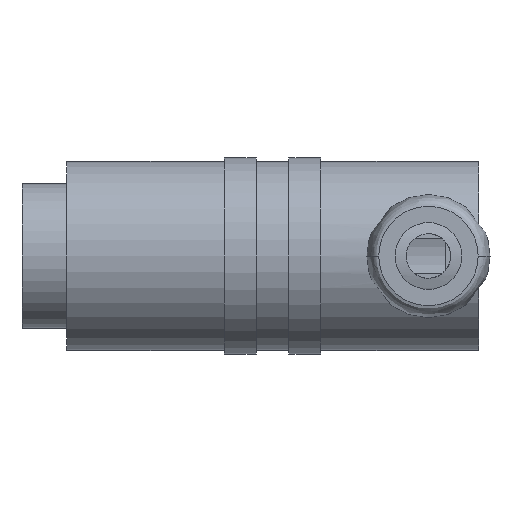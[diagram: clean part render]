
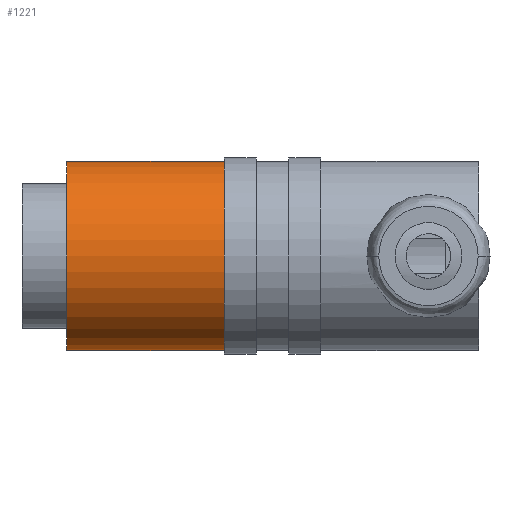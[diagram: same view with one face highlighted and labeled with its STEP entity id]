
A CAD part, front view. The second image highlights one B-rep face of the part: STEP entity #1221.
In plain terms, the highlighted cylindrical face has radius 8.5 mm (diameter 17 mm), a partial arc.
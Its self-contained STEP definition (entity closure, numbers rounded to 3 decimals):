
#85 = CARTESIAN_POINT ( 'NONE',  ( 18.176, 0., -8.5 ) ) ;
#88 = VERTEX_POINT ( 'NONE', #987 ) ;
#104 = CARTESIAN_POINT ( 'NONE',  ( 18.176, 0., 8.5 ) ) ;
#126 = CARTESIAN_POINT ( 'NONE',  ( 0., 0., -8.5 ) ) ;
#132 = ORIENTED_EDGE ( 'NONE', *, *, #1237, .F. ) ;
#239 = FACE_OUTER_BOUND ( 'NONE', #1075, .T. ) ;
#245 = VECTOR ( 'NONE', #1316, 1000. ) ;
#272 = DIRECTION ( 'NONE',  ( 0., 0., 1. ) ) ;
#295 = AXIS2_PLACEMENT_3D ( 'NONE', #1250, #392, #1155 ) ;
#353 = EDGE_CURVE ( 'NONE', #1373, #88, #1099, .T. ) ;
#392 = DIRECTION ( 'NONE',  ( -1., 0., 0. ) ) ;
#409 = CYLINDRICAL_SURFACE ( 'NONE', #441, 8.5 ) ;
#418 = VECTOR ( 'NONE', #479, 1000. ) ;
#432 = EDGE_CURVE ( 'NONE', #1276, #655, #709, .T. ) ;
#441 = AXIS2_PLACEMENT_3D ( 'NONE', #600, #726, #272 ) ;
#479 = DIRECTION ( 'NONE',  ( -1., 0., 0. ) ) ;
#558 = CARTESIAN_POINT ( 'NONE',  ( 18.176, 0., 0. ) ) ;
#578 = CIRCLE ( 'NONE', #595, 8.5 ) ;
#595 = AXIS2_PLACEMENT_3D ( 'NONE', #558, #1304, #667 ) ;
#600 = CARTESIAN_POINT ( 'NONE',  ( 0., 0., 0. ) ) ;
#655 = VERTEX_POINT ( 'NONE', #946 ) ;
#667 = DIRECTION ( 'NONE',  ( 0., 0., 1. ) ) ;
#709 = LINE ( 'NONE', #126, #418 ) ;
#726 = DIRECTION ( 'NONE',  ( -1., 0., 0. ) ) ;
#884 = EDGE_CURVE ( 'NONE', #1276, #1373, #578, .T. ) ;
#946 = CARTESIAN_POINT ( 'NONE',  ( 4., 0., -8.5 ) ) ;
#987 = CARTESIAN_POINT ( 'NONE',  ( 4., 0., 8.5 ) ) ;
#1012 = CARTESIAN_POINT ( 'NONE',  ( 0., 0., 8.5 ) ) ;
#1075 = EDGE_LOOP ( 'NONE', ( #1361, #1259, #1297, #132 ) ) ;
#1099 = LINE ( 'NONE', #1012, #245 ) ;
#1155 = DIRECTION ( 'NONE',  ( 0., 0., 1. ) ) ;
#1221 = ADVANCED_FACE ( 'NONE', ( #239 ), #409, .T. ) ;
#1237 = EDGE_CURVE ( 'NONE', #655, #88, #1269, .T. ) ;
#1250 = CARTESIAN_POINT ( 'NONE',  ( 4., 0., 0. ) ) ;
#1259 = ORIENTED_EDGE ( 'NONE', *, *, #884, .T. ) ;
#1269 = CIRCLE ( 'NONE', #295, 8.5 ) ;
#1276 = VERTEX_POINT ( 'NONE', #85 ) ;
#1297 = ORIENTED_EDGE ( 'NONE', *, *, #353, .T. ) ;
#1304 = DIRECTION ( 'NONE',  ( -1., 0., 0. ) ) ;
#1316 = DIRECTION ( 'NONE',  ( -1., 0., 0. ) ) ;
#1361 = ORIENTED_EDGE ( 'NONE', *, *, #432, .F. ) ;
#1373 = VERTEX_POINT ( 'NONE', #104 ) ;
